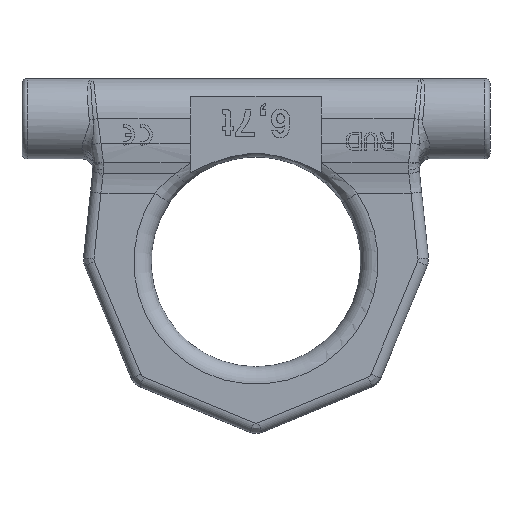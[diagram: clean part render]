
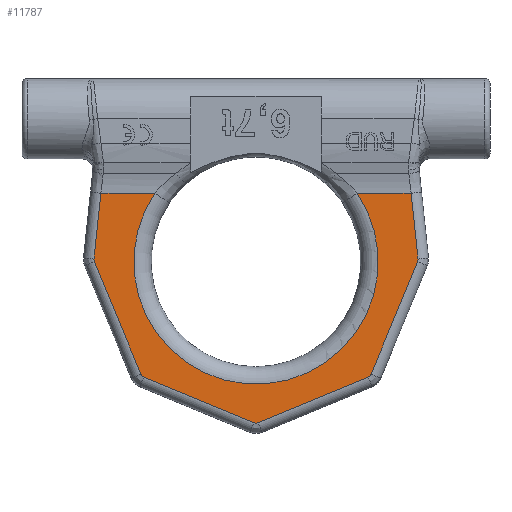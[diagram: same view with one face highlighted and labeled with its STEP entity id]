
A CAD part, front view. The second image highlights one B-rep face of the part: STEP entity #11787.
In plain terms, the highlighted planar face has unit normal (0, -1, 0).
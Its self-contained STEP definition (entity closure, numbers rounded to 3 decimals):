
#2646=CARTESIAN_POINT('',(-44.418,-10.,
19.652));
#2654=CARTESIAN_POINT('',(-28.962,-10.,
19.652));
#2671=CARTESIAN_POINT('',(0.,-10.,0.));
#2672=DIRECTION('',(0.,-1.,0.));
#2673=DIRECTION('',(-0.827,0.,0.561));
#2674=AXIS2_PLACEMENT_3D('',#2671,#2672,#2673);
#2743=CARTESIAN_POINT('',(28.962,-10.,19.652));
#2765=DIRECTION('',(0.105,0.,0.995));
#2766=VECTOR('',#2765,18.932);
#2767=CARTESIAN_POINT('',(-46.397,-10.,0.823));
#2768=LINE('',#2767,#2766);
#2769=DIRECTION('',(1.,0.,0.));
#2770=VECTOR('',#2769,15.456);
#2771=CARTESIAN_POINT('',(-44.418,-10.,
19.652));
#2772=LINE('',#2771,#2770);
#2773=DIRECTION('',(1.,0.,0.));
#2774=VECTOR('',#2773,15.456);
#2775=CARTESIAN_POINT('',(28.962,-10.,19.652));
#2776=LINE('',#2775,#2774);
#2777=DIRECTION('',(0.105,0.,-0.995));
#2778=VECTOR('',#2777,18.932);
#2779=CARTESIAN_POINT('',(44.418,-10.,19.652));
#2780=LINE('',#2779,#2778);
#2781=CARTESIAN_POINT('',(44.905,-10.,0.666));
#2782=DIRECTION('',(0.,1.,0.));
#2783=DIRECTION('',(0.995,0.,0.105));
#2784=AXIS2_PLACEMENT_3D('',#2781,#2782,#2783);
#2786=DIRECTION('',(-0.383,0.,-0.924));
#2787=VECTOR('',#2786,34.879);
#2788=CARTESIAN_POINT('',(46.291,-10.,0.092));
#2789=LINE('',#2788,#2787);
#2790=CARTESIAN_POINT('',(31.558,-10.,-31.558));
#2791=DIRECTION('',(0.,1.,0.));
#2792=DIRECTION('',(0.924,0.,-0.383));
#2793=AXIS2_PLACEMENT_3D('',#2790,#2791,#2792);
#2795=DIRECTION('',(-0.924,0.,-0.383));
#2796=VECTOR('',#2795,34.158);
#2797=CARTESIAN_POINT('',(32.132,-10.,-32.943));
#2798=LINE('',#2797,#2796);
#2799=CARTESIAN_POINT('',(0.,-10.,-44.629));
#2800=DIRECTION('',(0.,1.,0.));
#2801=DIRECTION('',(0.383,0.,-0.924));
#2802=AXIS2_PLACEMENT_3D('',#2799,#2800,#2801);
#2804=DIRECTION('',(-0.924,0.,0.383));
#2805=VECTOR('',#2804,34.158);
#2806=CARTESIAN_POINT('',(-0.574,-10.,-46.015));
#2807=LINE('',#2806,#2805);
#2808=CARTESIAN_POINT('',(-31.558,-10.,-31.558));
#2809=DIRECTION('',(0.,1.,0.));
#2810=DIRECTION('',(-0.383,0.,-0.924));
#2811=AXIS2_PLACEMENT_3D('',#2808,#2809,#2810);
#2813=DIRECTION('',(-0.383,0.,0.924));
#2814=VECTOR('',#2813,34.879);
#2815=CARTESIAN_POINT('',(-32.943,-10.,-32.132));
#2816=LINE('',#2815,#2814);
#2817=CARTESIAN_POINT('',(-44.905,-10.,0.666));
#2818=DIRECTION('',(0.,1.,0.));
#2819=DIRECTION('',(-0.924,0.,-0.383));
#2820=AXIS2_PLACEMENT_3D('',#2817,#2818,#2819);
#6962=VERTEX_POINT('',#2654);
#6974=VERTEX_POINT('',#2743);
#7094=CARTESIAN_POINT('',(44.418,-10.,19.652));
#7096=VERTEX_POINT('',#7094);
#7112=VERTEX_POINT('',#2646);
#7114=CARTESIAN_POINT('',(-46.397,-10.,0.823));
#7115=VERTEX_POINT('',#7114);
#7118=CARTESIAN_POINT('',(-46.291,-10.,0.092));
#7119=VERTEX_POINT('',#7118);
#7122=CARTESIAN_POINT('',(-32.943,-10.,-32.132));
#7123=VERTEX_POINT('',#7122);
#7126=CARTESIAN_POINT('',(-32.132,-10.,-32.943));
#7127=VERTEX_POINT('',#7126);
#7130=CARTESIAN_POINT('',(-0.574,-10.,-46.015));
#7131=VERTEX_POINT('',#7130);
#7134=CARTESIAN_POINT('',(0.574,-10.,-46.015));
#7135=VERTEX_POINT('',#7134);
#7138=CARTESIAN_POINT('',(32.132,-10.,-32.943));
#7139=VERTEX_POINT('',#7138);
#7142=CARTESIAN_POINT('',(32.943,-10.,-32.132));
#7143=VERTEX_POINT('',#7142);
#7146=CARTESIAN_POINT('',(46.291,-10.,0.092));
#7147=VERTEX_POINT('',#7146);
#7150=CARTESIAN_POINT('',(46.397,-10.,0.823));
#7151=VERTEX_POINT('',#7150);
#11757=CARTESIAN_POINT('',(75.,-10.,-60.));
#11758=DIRECTION('',(0.,-1.,0.));
#11759=DIRECTION('',(0.,0.,1.));
#11760=AXIS2_PLACEMENT_3D('',#11757,#11758,#11759);
#11761=PLANE('',#11760);
#11763=ORIENTED_EDGE('',*,*,#11762,.T.);
#11764=ORIENTED_EDGE('',*,*,#11458,.T.);
#11765=ORIENTED_EDGE('',*,*,#11504,.T.);
#11766=ORIENTED_EDGE('',*,*,#11661,.T.);
#11767=ORIENTED_EDGE('',*,*,#11726,.T.);
#11768=ORIENTED_EDGE('',*,*,#11748,.T.);
#11770=ORIENTED_EDGE('',*,*,#11769,.T.);
#11772=ORIENTED_EDGE('',*,*,#11771,.T.);
#11774=ORIENTED_EDGE('',*,*,#11773,.T.);
#11776=ORIENTED_EDGE('',*,*,#11775,.T.);
#11778=ORIENTED_EDGE('',*,*,#11777,.T.);
#11780=ORIENTED_EDGE('',*,*,#11779,.T.);
#11782=ORIENTED_EDGE('',*,*,#11781,.T.);
#11784=ORIENTED_EDGE('',*,*,#11783,.T.);
#11785=EDGE_LOOP('',(#11763,#11764,#11765,#11766,#11767,#11768,#11770,#11772,
#11774,#11776,#11778,#11780,#11782,#11784));
#11786=FACE_OUTER_BOUND('',#11785,.F.);
#11787=ADVANCED_FACE('',(#11786),#11761,.T.);
#2675=CIRCLE('',#2674,35.);
#2785=CIRCLE('',#2784,1.5);
#2794=CIRCLE('',#2793,1.5);
#2803=CIRCLE('',#2802,1.5);
#2812=CIRCLE('',#2811,1.5);
#2821=CIRCLE('',#2820,1.5);
#11458=EDGE_CURVE('',#7112,#6962,#2772,.T.);
#11504=EDGE_CURVE('',#6962,#6974,#2675,.T.);
#11661=EDGE_CURVE('',#6974,#7096,#2776,.T.);
#11726=EDGE_CURVE('',#7096,#7151,#2780,.T.);
#11748=EDGE_CURVE('',#7151,#7147,#2785,.T.);
#11762=EDGE_CURVE('',#7115,#7112,#2768,.T.);
#11769=EDGE_CURVE('',#7147,#7143,#2789,.T.);
#11771=EDGE_CURVE('',#7143,#7139,#2794,.T.);
#11773=EDGE_CURVE('',#7139,#7135,#2798,.T.);
#11775=EDGE_CURVE('',#7135,#7131,#2803,.T.);
#11777=EDGE_CURVE('',#7131,#7127,#2807,.T.);
#11779=EDGE_CURVE('',#7127,#7123,#2812,.T.);
#11781=EDGE_CURVE('',#7123,#7119,#2816,.T.);
#11783=EDGE_CURVE('',#7119,#7115,#2821,.T.);
